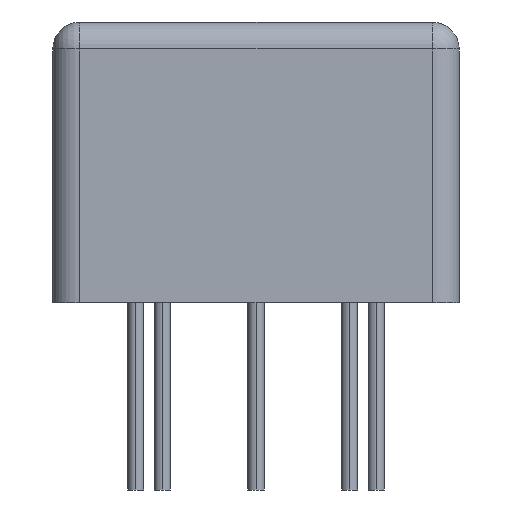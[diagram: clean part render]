
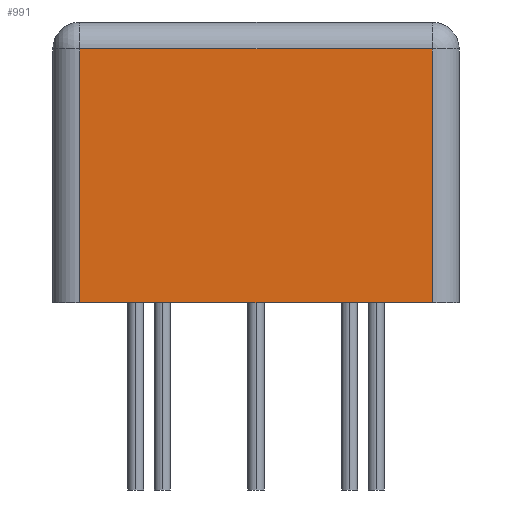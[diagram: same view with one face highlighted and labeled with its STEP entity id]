
A CAD part, left-side view. The second image highlights one B-rep face of the part: STEP entity #991.
In plain terms, the highlighted planar face has unit normal (-1, 0, 0).
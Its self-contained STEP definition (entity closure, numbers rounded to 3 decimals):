
#218 = EDGE_CURVE ( 'NONE', #319, #4577, #5683, .T. ) ;
#242 = CARTESIAN_POINT ( 'NONE',  ( -12.7, 6.6, 9.5 ) ) ;
#319 = VERTEX_POINT ( 'NONE', #864 ) ;
#605 = LINE ( 'NONE', #4969, #3266 ) ;
#864 = CARTESIAN_POINT ( 'NONE',  ( -12.7, -6.6, 0. ) ) ;
#991 = ADVANCED_FACE ( 'NONE', ( #1414 ), #4041, .T. ) ;
#998 = CARTESIAN_POINT ( 'NONE',  ( -12.7, 6.6, 10.5 ) ) ;
#1266 = CARTESIAN_POINT ( 'NONE',  ( -12.7, -7.6, 0. ) ) ;
#1354 = EDGE_CURVE ( 'NONE', #3522, #3886, #605, .T. ) ;
#1355 = DIRECTION ( 'NONE',  ( 0., 0., 1. ) ) ;
#1414 = FACE_OUTER_BOUND ( 'NONE', #6852, .T. ) ;
#1544 = AXIS2_PLACEMENT_3D ( 'NONE', #5852, #2434, #6898 ) ;
#2044 = DIRECTION ( 'NONE',  ( 0., 0., -1. ) ) ;
#2314 = CARTESIAN_POINT ( 'NONE',  ( -12.7, 6.6, 0. ) ) ;
#2434 = DIRECTION ( 'NONE',  ( -1., 0., 0. ) ) ;
#2666 = VECTOR ( 'NONE', #2044, 1000. ) ;
#2782 = CARTESIAN_POINT ( 'NONE',  ( -12.7, -6.6, 9.5 ) ) ;
#2875 = CARTESIAN_POINT ( 'NONE',  ( -12.7, -6.6, 10.5 ) ) ;
#2877 = ORIENTED_EDGE ( 'NONE', *, *, #6948, .T. ) ;
#2931 = DIRECTION ( 'NONE',  ( 0., 1., 0. ) ) ;
#2990 = LINE ( 'NONE', #2875, #4230 ) ;
#3266 = VECTOR ( 'NONE', #4391, 1000. ) ;
#3522 = VERTEX_POINT ( 'NONE', #2782 ) ;
#3886 = VERTEX_POINT ( 'NONE', #242 ) ;
#4041 = PLANE ( 'NONE',  #1544 ) ;
#4230 = VECTOR ( 'NONE', #1355, 1000. ) ;
#4391 = DIRECTION ( 'NONE',  ( 0., 1., 0. ) ) ;
#4577 = VERTEX_POINT ( 'NONE', #2314 ) ;
#4969 = CARTESIAN_POINT ( 'NONE',  ( -12.7, 7.6, 9.5 ) ) ;
#5606 = ORIENTED_EDGE ( 'NONE', *, *, #218, .F. ) ;
#5683 = LINE ( 'NONE', #1266, #6323 ) ;
#5713 = EDGE_CURVE ( 'NONE', #3886, #4577, #6580, .T. ) ;
#5852 = CARTESIAN_POINT ( 'NONE',  ( -12.7, -7.6, 10.5 ) ) ;
#6154 = ORIENTED_EDGE ( 'NONE', *, *, #1354, .T. ) ;
#6323 = VECTOR ( 'NONE', #2931, 1000. ) ;
#6423 = ORIENTED_EDGE ( 'NONE', *, *, #5713, .T. ) ;
#6580 = LINE ( 'NONE', #998, #2666 ) ;
#6852 = EDGE_LOOP ( 'NONE', ( #6154, #6423, #5606, #2877 ) ) ;
#6898 = DIRECTION ( 'NONE',  ( 0., 0., 1. ) ) ;
#6948 = EDGE_CURVE ( 'NONE', #319, #3522, #2990, .T. ) ;
